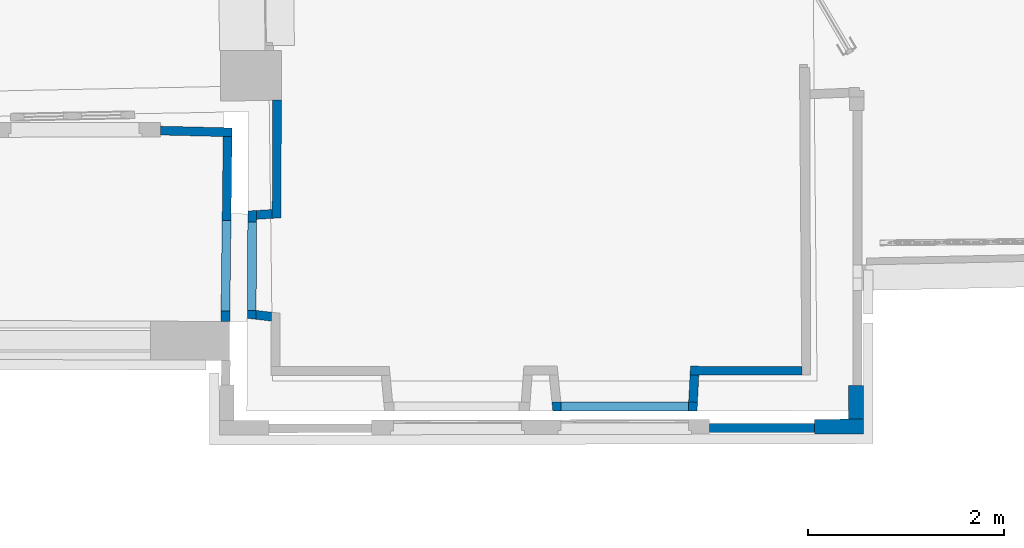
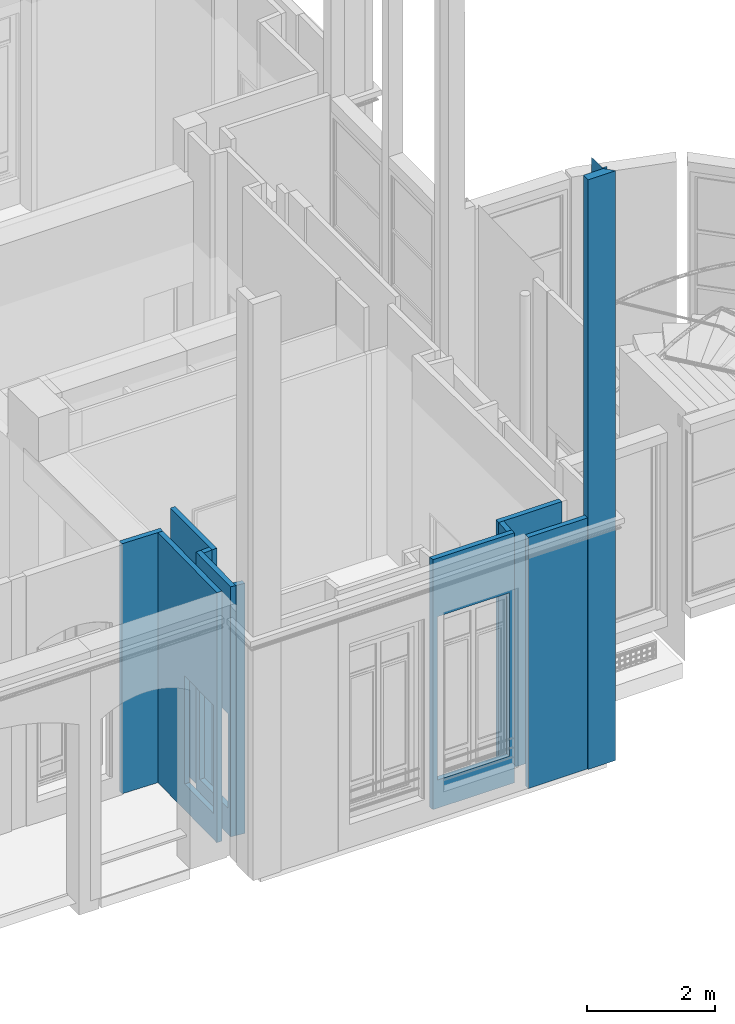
# One storey, part 13 of 97: 12 walls, 3 openings.
"""IFC2X3 building model written with IfcOpenShell, lengths in centimetres."""

import ifcopenshell
import ifcopenshell.guid

model = None  # the IFC model being written
_history = None  # IfcOwnerHistory: only IFC2X3 demands one
_inside = {}  # id of a spatial element -> (the spatial element, [elements in it])
_under = {}  # id of a project, library or spatial element -> (it, [spatial elements below it])
_declared = {}  # id of a project -> (the project, [libraries it declares])
_typed = {}  # id of a type object -> (the type object, [elements of that type])
_made_of = {}  # id of a material, layer set ... -> (it, [elements and type objects made of it])


def new_model(schema):
    """Start an empty IFC model of exactly this schema.

    Asked for "IFC4X3", IfcOpenShell would pick the latest addendum, in which some entities
    have other attributes; the version numbers below select the first issue.
    IFC2X3 requires an IfcOwnerHistory on every rooted entity: one is made here for all.
    """
    global model, _history
    if schema == "IFC4X3":
        model = ifcopenshell.file(schema_version=(4, 3, 0, 0))
    else:
        model = ifcopenshell.file(schema=schema)
    _inside.clear()
    _under.clear()
    _declared.clear()
    _typed.clear()
    _made_of.clear()
    _history = None
    if model.schema == "IFC2X3":
        org = make("IfcOrganization", Name="unknown")
        user = make(
            "IfcPersonAndOrganization",
            ThePerson=make("IfcPerson", FamilyName="unknown"),
            TheOrganization=org,
        )
        app = make(
            "IfcApplication",
            ApplicationDeveloper=org,
            Version="unknown",
            ApplicationFullName="unknown",
            ApplicationIdentifier="unknown",
        )
        _history = make(
            "IfcOwnerHistory",
            OwningUser=user,
            OwningApplication=app,
            ChangeAction="ADDED",
            CreationDate=0,
        )
    return model


def make(cls, **values):
    """One entity of the class cls with the attributes given. An attribute that is None is left unset."""
    return model.create_entity(
        cls, **{name: value for name, value in values.items() if value is not None}
    )


def entity(cls, *values):
    """Any entity or typed value of the class cls, its attributes in the order of the schema. None: left unset."""
    e = model.create_entity(cls)
    for i, value in enumerate(values):
        if value is not None:
            e[i] = value
    return e


def rooted(cls, **values):
    """An entity with a GlobalId (a new one), such as an element, a storey or a relation."""
    return make(cls, GlobalId=ifcopenshell.guid.new(), OwnerHistory=_history, **values)


def si_unit(unit_type, name, prefix=None):
    """IfcSIUnit, for example si_unit("LENGTHUNIT", "METRE", prefix="MILLI")."""
    return make("IfcSIUnit", UnitType=unit_type, Prefix=prefix, Name=name)


def converted_unit(unit_type, name, factor, base, dimensions=None, offset=None):
    """IfcConversionBasedUnit, such as the inch: factor (a typed value) times the base unit."""
    return make(
        "IfcConversionBasedUnit"
        if offset is None
        else "IfcConversionBasedUnitWithOffset",
        ConversionOffset=offset,
        Dimensions=None
        if dimensions is None
        else entity("IfcDimensionalExponents", *dimensions),
        UnitType=unit_type,
        Name=name,
        ConversionFactor=make(
            "IfcMeasureWithUnit", ValueComponent=factor, UnitComponent=base
        ),
    )


def assignment(units):
    """IfcUnitAssignment: the units of a project."""
    return None if units is None else make("IfcUnitAssignment", Units=units)


def point(xyz):
    """IfcCartesianPoint."""
    return None if xyz is None else make("IfcCartesianPoint", Coordinates=xyz)


def direction(xyz):
    """IfcDirection."""
    return None if xyz is None else make("IfcDirection", DirectionRatios=xyz)


def frame(location, z_axis=None, x_axis=None):
    """IfcAxis2Placement3D, a coordinate frame: its origin and axes. An axis left out is left unset."""
    return make(
        "IfcAxis2Placement3D",
        Location=point(location),
        Axis=direction(z_axis),
        RefDirection=direction(x_axis),
    )


def origin():
    """The frame at (0, 0, 0) with its axes left unset."""
    return frame((0.0, 0.0, 0.0))


def origin_with_axes():
    """The frame at (0, 0, 0) with the z axis (0, 0, 1) and the x axis (1, 0, 0) written out."""
    return frame((0.0, 0.0, 0.0), z_axis=(0.0, 0.0, 1.0), x_axis=(1.0, 0.0, 0.0))


def place(relative_to, where):
    """IfcLocalPlacement: puts the frame where relative to a parent placement (None: the world)."""
    return make(
        "IfcLocalPlacement", PlacementRelTo=relative_to, RelativePlacement=where
    )


def context(
    kind, dimensions, precision=None, world=None, true_north=None, identifier=None
):
    """IfcGeometricRepresentationContext, for example the 3D "Model" context."""
    return make(
        "IfcGeometricRepresentationContext",
        ContextIdentifier=identifier,
        ContextType=kind,
        CoordinateSpaceDimension=dimensions,
        Precision=precision,
        WorldCoordinateSystem=world,
        TrueNorth=true_north,
    )


def subcontext(parent, identifier, kind, view, scale=None):
    """IfcGeometricRepresentationSubContext, for example "Body" below "Model"."""
    return make(
        "IfcGeometricRepresentationSubContext",
        ContextIdentifier=identifier,
        ContextType=kind,
        ParentContext=parent,
        TargetScale=scale,
        TargetView=view,
    )


def project(units=None, contexts=None):
    """IfcProject with its units and contexts."""
    return rooted(
        "IfcProject",
        Name="project",
        RepresentationContexts=contexts,
        UnitsInContext=assignment(units),
    )


def spatial(cls, under=None, at=None, **own):
    """A site, building, storey or space (cls), placed at a placement, below another one or the project."""
    s = rooted(cls, ObjectPlacement=at, **own)
    if under is not None:
        _under.setdefault(under.id(), (under, []))[1].append(s)
    return s


def polyline(points):
    """IfcPolyline through the points."""
    return make("IfcPolyline", Points=[point(p) for p in points])


def outline(outer, holes=None, kind="AREA"):
    """IfcArbitraryClosedProfileDef: a profile drawn as a closed curve; with holes, ...WithVoids."""
    if holes is None:
        return make("IfcArbitraryClosedProfileDef", ProfileType=kind, OuterCurve=outer)
    return make(
        "IfcArbitraryProfileDefWithVoids",
        ProfileType=kind,
        OuterCurve=outer,
        InnerCurves=holes,
    )


def extrude(swept, where, along, depth):
    """IfcExtrudedAreaSolid: the profile swept, set in the frame where, extruded along a direction by depth."""
    return make(
        "IfcExtrudedAreaSolid",
        SweptArea=swept,
        Position=where,
        ExtrudedDirection=direction(along),
        Depth=depth,
    )


def clip(a, b, op="DIFFERENCE"):
    """IfcBooleanClippingResult: the solid a cut by the half space b."""
    return make(
        "IfcBooleanClippingResult", Operator=op, FirstOperand=a, SecondOperand=b
    )


def bounded_halfspace(plane, agree, where, boundary):
    """IfcPolygonalBoundedHalfSpace: a half space limited to a polygon's prism."""
    return make(
        "IfcPolygonalBoundedHalfSpace",
        BaseSurface=make("IfcPlane", Position=plane),
        AgreementFlag=agree,
        Position=where,
        PolygonalBoundary=boundary,
    )


def shape(context_of_items, identifier, shape_type, items):
    """IfcShapeRepresentation: the items that make up one representation, for example the "Body"."""
    return make(
        "IfcShapeRepresentation",
        ContextOfItems=context_of_items,
        RepresentationIdentifier=identifier,
        RepresentationType=shape_type,
        Items=items,
    )


def material(Name=None, Category=None):
    """IfcMaterial."""
    return make("IfcMaterial", Name=Name, Category=Category)


def layer(
    of_material, thickness, ventilated=None, Name=None, Category=None, Priority=None
):
    """IfcMaterialLayer: one layer of a wall or slab, of a material (None: an air gap)."""
    return make(
        "IfcMaterialLayer",
        Material=of_material,
        LayerThickness=thickness,
        IsVentilated=ventilated,
        Name=Name,
        Category=Category,
        Priority=Priority,
    )


def layer_set(layers, Name=None):
    """IfcMaterialLayerSet."""
    return make("IfcMaterialLayerSet", MaterialLayers=layers, LayerSetName=Name)


def layer_usage(for_layer_set, set_direction, sense, offset, extent=None):
    """IfcMaterialLayerSetUsage: how a layer set lies in its element."""
    return make(
        "IfcMaterialLayerSetUsage",
        ForLayerSet=for_layer_set,
        LayerSetDirection=set_direction,
        DirectionSense=sense,
        OffsetFromReferenceLine=offset,
        ReferenceExtent=extent,
    )


def made_of(thing, what):
    """Note that an element or type object is made of a material, layer set ...; save() writes the relation."""
    if what is not None:
        _made_of.setdefault(what.id(), (what, []))[1].append(thing)
    return thing


def type_object(cls, material=None, **own):
    """A type object (cls), such as IfcWallType, which elements share."""
    return made_of(rooted(cls, **own), material)


def element(
    cls,
    number,
    at=None,
    inside=None,
    cuts=None,
    type_object=None,
    material=None,
    context=None,
    identifier="Body",
    shape_type=None,
    held_by="IfcProductDefinitionShape",
    body=None,
    shapes=None,
    **own,
):
    """One element of the class cls, such as IfcWall. Its Tag is "e" and its number.

    at: its placement. inside: the storey or other place that contains it. cuts: it is an
    opening in that element (IfcRelVoidsElement). A single representation is given by context,
    identifier, shape_type and body (its items); several are given by shapes. held_by: the class
    of the entity that holds the representations. save() writes the other relations.
    """
    e = rooted(cls, Tag="e%d" % number, ObjectPlacement=at, **own)
    if body is not None:
        shapes = [shape(context, identifier, shape_type, body)]
    if shapes is not None:
        e.Representation = make(held_by, Representations=shapes)
    if inside is not None:
        _inside.setdefault(inside.id(), (inside, []))[1].append(e)
    if cuts is not None:
        rooted(
            "IfcRelVoidsElement", RelatingBuildingElement=cuts, RelatedOpeningElement=e
        )
    if type_object is not None:
        _typed.setdefault(type_object.id(), (type_object, []))[1].append(e)
    return made_of(e, material)


def aggregate(whole, parts):
    """IfcRelAggregates: a whole, such as a stair, and the parts it consists of."""
    return rooted("IfcRelAggregates", RelatingObject=whole, RelatedObjects=parts)


def save(model, path):
    """Write the relations noted so far, then the file.

    IfcRelAggregates (storeys below a building ...), IfcRelContainedInSpatialStructure (elements
    in a storey), IfcRelDefinesByType, IfcRelAssociatesMaterial and IfcRelDeclares: one each for
    every whole, place, type object, material and project.
    """
    for whole, parts in _under.values():
        aggregate(whole, parts)
    for where, things in _inside.values():
        rooted(
            "IfcRelContainedInSpatialStructure",
            RelatedElements=things,
            RelatingStructure=where,
        )
    for kind, things in _typed.values():
        rooted("IfcRelDefinesByType", RelatedObjects=things, RelatingType=kind)
    for what, things in _made_of.values():
        rooted("IfcRelAssociatesMaterial", RelatedObjects=things, RelatingMaterial=what)
    for by, libraries in _declared.values():
        rooted("IfcRelDeclares", RelatingContext=by, RelatedDefinitions=libraries)
    model.write(path)


model = new_model("IFC2X3")

# Units and contexts
model_context = context("Model", 3, precision=0.0001, world=origin(), true_north=direction((0.225632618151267, 0.974212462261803, 0.0)))
body_context = subcontext(model_context, "Body", "Model", "MODEL_VIEW")
footprint_context = subcontext(model_context, "FootPrint", "Model", "MODEL_VIEW")
profile_context = subcontext(model_context, "Profile", "Model", "MODEL_VIEW")
ifc_project = project(units=[si_unit("LENGTHUNIT", "METRE", prefix="CENTI"), si_unit("AREAUNIT", "SQUARE_METRE", prefix="CENTI"), si_unit("VOLUMEUNIT", "CUBIC_METRE", prefix="CENTI"), converted_unit("PLANEANGLEUNIT", "DEGREE", entity("IfcRatioMeasure", 0.0174532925), si_unit("PLANEANGLEUNIT", "RADIAN"), dimensions=[0, 0, 0, 0, 0, 0, 0])], contexts=[model_context])

# Site, building, storey
site_placement = place(None, origin_with_axes())
site = spatial("IfcSite", under=ifc_project, at=site_placement, Name="Default Site", CompositionType="ELEMENT")
building_placement = place(site_placement, origin_with_axes())
building = spatial("IfcBuilding", under=site, at=building_placement, Name="Default Building", CompositionType="ELEMENT")
storey_placement = place(building_placement, origin_with_axes())
storey = spatial("IfcBuildingStorey", under=building, at=storey_placement, Name="Rez-de-chaussée", CompositionType="ELEMENT", Elevation=0.0)

# Wall, opening
ifc_material = material(Name="<aucun>")
ifc_layer_1 = layer(ifc_material, 9.0)
ifc_layer_set_1 = layer_set([ifc_layer_1], Name="default")
ifc_layer_usage_1 = layer_usage(ifc_layer_set_1, "AXIS2", "POSITIVE", -4.5)
wall_type_1 = type_object("IfcWallType", Name="default 90", PredefinedType="NOTDEFINED", material=ifc_layer_set_1)
wall_1_placement = place(storey_placement, frame((244.896109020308, -934.20949615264, 0.0128503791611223), z_axis=(0.0, 0.0, 1.0), x_axis=(0.012176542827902, 0.999925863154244, 0.0)))
wall_1 = element("IfcWallStandardCase", 1, at=wall_1_placement, inside=storey, type_object=wall_type_1, material=ifc_layer_usage_1, Name="Enveloppe 376068", context=body_context, shape_type="SweptSolid", body=[
    extrude(outline(polyline([(-0.00565498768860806, 4.4999999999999), (0.0626911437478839, -4.49998783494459), (188.245870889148, -4.49999999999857), (188.355480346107, 4.50000000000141), (-0.00565498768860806, 4.4999999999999)])), frame((0.0, 0.0, -3.10862446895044e-13), z_axis=(0.0, 0.0, 1.0), x_axis=(1.0, 0.0, 0.0)), (0.0, 0.0, 1.0), 477.795358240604),
])
opening_1_placement = place(wall_1_placement, frame((10.5128702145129, 5.6843418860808e-14, 49.5481608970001), z_axis=(0.0, 0.0, 1.0), x_axis=(1.0, 7.72472363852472e-15, 0.0)))
cartesian_point_1 = entity("IfcCartesianPoint", [0.0, 4.44089209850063e-14, 206.671484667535])
cartesian_point_2 = entity("IfcCartesianPoint", [92.5929978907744, 4.49999999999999])
element("IfcOpeningElement", 2, at=opening_1_placement, cuts=wall_1, Name="Baie 380011", ObjectType="Opening", shapes=[
    shape(body_context, "Body", "SweptSolid", [extrude(outline(polyline([(0.0, 206.671484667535), (0.0, 0.0), (92.5929978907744, 0.0), (92.5929978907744, 206.671484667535), (0.0, 206.671484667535)])), frame((0.0, 14.5, 0.0), z_axis=(0.0, -1.0, 0.0), x_axis=(1.0, 0.0, 0.0)), (0.0, 0.0, 1.0), 29.0)]),
    shape(profile_context, "Profile", "GeometricCurveSet", [entity("IfcGeometricCurveSet", [entity("IfcPolyline", [cartesian_point_1, entity("IfcCartesianPoint", [0.0, 4.44089209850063e-14, 0.0]), entity("IfcCartesianPoint", [92.5929978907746, 0.0, 0.0]), entity("IfcCartesianPoint", [92.5929978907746, 0.0, 206.671484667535]), cartesian_point_1])])]),
    shape(footprint_context, "FootPrint", "GeometricCurveSet", [entity("IfcGeometricCurveSet", [entity("IfcPolyline", [cartesian_point_2, entity("IfcCartesianPoint", [0.0, 4.50000000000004]), entity("IfcCartesianPoint", [0.0, -4.49999999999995]), entity("IfcCartesianPoint", [92.5929978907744, -4.49999999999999]), cartesian_point_2])])]),
])

# Walls
ifc_layer_usage_2 = layer_usage(ifc_layer_set_1, "AXIS2", "POSITIVE", -4.5)
wall_2_placement = place(storey_placement, frame((242.796338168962, -741.314441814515, 0.0128503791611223), z_axis=(0.0, 0.0, 1.0), x_axis=(-0.999703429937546, 0.0243526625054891, 0.0)))
element("IfcWallStandardCase", 3, at=wall_2_placement, inside=storey, type_object=wall_type_1, material=ifc_layer_usage_2, Name="Enveloppe 375942", context=body_context, shape_type="SweptSolid", body=[
    extrude(outline(polyline([(63.7756651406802, 4.50000000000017), (-9.00387840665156, 4.49999999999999), (-8.8942689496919, -4.50000000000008), (63.9992019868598, -4.49999999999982), (63.7756651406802, 4.50000000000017)])), frame((0.0, 0.0, -2.71050543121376e-18), z_axis=(0.0, 0.0, 1.0), x_axis=(1.0, 0.0, 0.0)), (0.0, 0.0, 1.0), 477.795358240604),
])
ifc_layer_usage_3 = layer_usage(ifc_layer_set_1, "AXIS2", "POSITIVE", -4.5)
wall_3_placement = place(storey_placement, frame((300.206487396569, -930.273903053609, 0.0128503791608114), z_axis=(0.0, 0.0, 1.0), x_axis=(-0.993236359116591, 0.116110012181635, 0.0)))
element("IfcWallStandardCase", 4, at=wall_3_placement, inside=storey, type_object=wall_type_1, material=ifc_layer_usage_3, Name="Enveloppe 769168", context=body_context, shape_type="SweptSolid", body=[
    extrude(outline(polyline([(23.6238919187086, 4.49999999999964), (8.05495055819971, 4.49999999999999), (9.05543910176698, -4.49999999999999), (24.6243804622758, -4.50000000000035), (23.6238919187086, 4.49999999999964)])), origin_with_axes(), (0.0, 0.0, 1.0), 477.795358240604),
])
ifc_layer_usage_4 = layer_usage(ifc_layer_set_1, "AXIS2", "POSITIVE", -4.5)
wall_4_placement = place(storey_placement, frame((297.142954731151, -829.154494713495, 0.0128503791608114), z_axis=(0.0, 0.0, 1.0), x_axis=(0.0028780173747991, 0.999995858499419, 0.0)))
element("IfcWallStandardCase", 5, at=wall_4_placement, inside=storey, type_object=wall_type_1, material=ifc_layer_usage_4, Name="Enveloppe 769384", context=body_context, shape_type="Clipping", body=[
    clip(extrude(outline(polyline([(-3.5527136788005e-13, 4.49999999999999), (0.580787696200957, -4.49999999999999), (131.776431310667, -4.50000000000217), (131.776431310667, 4.49999999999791), (-3.5527136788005e-13, 4.49999999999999)])), origin_with_axes(), (0.0, 0.0, 1.0), 477.795358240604), bounded_halfspace(frame((120.362145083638, 4.49999999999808, 393.395358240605), z_axis=(0.0, 0.0, 1.0), x_axis=(1.0, -1.42555238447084e-14, 0.0)), True, frame((120.362145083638, 4.49999999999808, 393.395358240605), z_axis=(0.0, 0.0, 1.0), x_axis=(1.0, 0.0, 0.0)), polyline([(-3.5527136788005e-13, -8.96822671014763), (0.0, 4.44089209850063e-14), (11.4142862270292, -1.33226762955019e-13), (11.414286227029, -9.00000000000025), (-3.5527136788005e-13, -8.96822671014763)]))),
])
ifc_layer_usage_5 = layer_usage(ifc_layer_set_1, "AXIS2", "POSITIVE", -4.5)
wall_5_placement = place(storey_placement, frame((267.516559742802, -826.181856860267, 0.0128503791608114), z_axis=(0.0, 0.0, 1.0), x_axis=(0.998105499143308, 0.0615257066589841, 0.0)))
element("IfcWallStandardCase", 6, at=wall_5_placement, inside=storey, type_object=wall_type_1, material=ifc_layer_usage_5, Name="Enveloppe 770643", context=body_context, shape_type="SweptSolid", body=[
    extrude(outline(polyline([(9.02037552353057, -4.50000000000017), (24.8967147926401, -4.50000000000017), (25.4775024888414, 4.50000000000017), (9.62632484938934, 4.50000000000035), (9.02037552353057, -4.50000000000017)])), origin_with_axes(), (0.0, 0.0, 1.0), 477.795358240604),
])
ifc_layer_usage_6 = layer_usage(ifc_layer_set_1, "AXIS2", "POSITIVE", -4.5)
wall_6_placement = place(storey_placement, frame((832.108415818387, -984.430761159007, 0.0128503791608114), z_axis=(0.0, 0.0, 1.0), x_axis=(-0.999999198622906, 0.00126599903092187, 0.0)))
element("IfcWallStandardCase", 7, at=wall_6_placement, inside=storey, type_object=wall_type_1, material=ifc_layer_usage_6, Name="Enveloppe 767057", context=body_context, shape_type="SweptSolid", body=[
    extrude(outline(polyline([(113.835040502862, 4.50000000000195), (-0.079555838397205, 4.50000000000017), (7.99360577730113e-12, -4.49999999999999), (113.384060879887, -4.49999999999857), (113.835040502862, 4.50000000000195)])), frame((0.0, 0.0, -2.71050543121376e-18), z_axis=(0.0, 0.0, 1.0), x_axis=(1.0, 0.0, 0.0)), (0.0, 0.0, 1.0), 477.795358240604),
])
ifc_layer_usage_7 = layer_usage(ifc_layer_set_1, "AXIS2", "POSITIVE", -4.5)
wall_7_placement = place(storey_placement, frame((721.338440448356, -1016.72197587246, 0.0128503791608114), z_axis=(0.0, 0.0, 1.0), x_axis=(0.0513104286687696, 0.998682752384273, 0.0)))
element("IfcWallStandardCase", 8, at=wall_7_placement, inside=storey, type_object=wall_type_1, material=ifc_layer_usage_7, Name="Enveloppe 767131", context=body_context, shape_type="SweptSolid", body=[
    extrude(outline(polyline([(0.333685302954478, 4.49999999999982), (0.333685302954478, -4.49999999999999), (28.19195780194, -4.49999999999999), (27.7409781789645, 4.4999999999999), (0.333685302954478, 4.49999999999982)])), frame((0.0, 0.0, 2.71050543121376e-18), z_axis=(0.0, 0.0, 1.0), x_axis=(1.0, 0.0, 0.0)), (0.0, 0.0, 1.0), 477.795358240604),
])

# Wall, opening
ifc_layer_usage_8 = layer_usage(ifc_layer_set_1, "AXIS2", "POSITIVE", -4.5)
wall_8_placement = place(storey_placement, frame((582.599325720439, -1020.69324960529, 0.0128503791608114), z_axis=(0.0, 0.0, 1.0), x_axis=(0.999999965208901, 0.000263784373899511, 0.0)))
wall_8 = element("IfcWallStandardCase", 9, at=wall_8_placement, inside=storey, type_object=wall_type_1, material=ifc_layer_usage_8, Name="Enveloppe 767132", context=body_context, shape_type="SweptSolid", body=[
    extrude(outline(polyline([(-4.97437622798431, 4.49999999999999), (-4.07086216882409, -4.50000000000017), (142.810565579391, -4.50000000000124), (143.251378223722, 4.03583522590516), (134.263355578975, 4.49999999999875), (-4.97437622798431, 4.49999999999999)])), origin_with_axes(), (0.0, 0.0, 1.0), 477.795358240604),
])
opening_2_placement = place(wall_8_placement, frame((4.07086216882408, 0.0, 54.0313409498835), z_axis=(0.0, 0.0, 1.0), x_axis=(1.0, -9.59209925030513e-15, 0.0)))
cartesian_point_3 = entity("IfcCartesianPoint", [0.0, 0.0, 312.0])
cartesian_point_4 = entity("IfcCartesianPoint", [130.192493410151, 4.49999999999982])
element("IfcOpeningElement", 10, at=opening_2_placement, cuts=wall_8, Name="4294966462_11", ObjectType="Opening", shapes=[
    shape(body_context, "Body", "SweptSolid", [extrude(outline(polyline([(0.0, 312.0), (0.0, -1.11022302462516e-14), (130.192493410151, -1.11022302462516e-14), (130.192493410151, 312.0), (0.0, 312.0)])), frame((0.0, 14.5, 0.0), z_axis=(0.0, -1.0, 0.0), x_axis=(1.0, 0.0, 0.0)), (0.0, 0.0, 1.0), 29.0)]),
    shape(profile_context, "Profile", "GeometricCurveSet", [entity("IfcGeometricCurveSet", [entity("IfcPolyline", [cartesian_point_3, entity("IfcCartesianPoint", [0.0, 0.0, -1.11022302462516e-14]), entity("IfcCartesianPoint", [130.192493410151, -1.77635683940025e-13, -1.11022302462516e-14]), entity("IfcCartesianPoint", [130.192493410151, -1.77635683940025e-13, 312.0]), cartesian_point_3])])]),
    shape(footprint_context, "FootPrint", "GeometricCurveSet", [entity("IfcGeometricCurveSet", [entity("IfcPolyline", [cartesian_point_4, entity("IfcCartesianPoint", [0.0, 4.49999999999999]), entity("IfcCartesianPoint", [8.88178419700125e-14, -4.50000000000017]), entity("IfcCartesianPoint", [130.192493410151, -4.49999999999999]), cartesian_point_4])])]),
])

ifc_layer_usage_9 = layer_usage(ifc_layer_set_1, "AXIS2", "POSITIVE", -4.5)
wall_9_placement = place(storey_placement, frame((271.748422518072, -926.947135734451, 0.0128503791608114), z_axis=(0.0, 0.0, 1.0), x_axis=(0.00566162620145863, 0.999983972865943, 0.0)))
wall_9 = element("IfcWallStandardCase", 11, at=wall_9_placement, inside=storey, type_object=wall_type_1, material=ifc_layer_usage_9, Name="Enveloppe 3133", context=body_context, shape_type="SweptSolid", body=[
    extrude(outline(polyline([(-4.02747527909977, 4.49999999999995), (-5.02796382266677, -4.50000000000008), (105.876194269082, -4.49999999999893), (105.270244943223, 4.50000000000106), (-4.02747527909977, 4.49999999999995)])), frame((0.0, 0.0, 2.71050543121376e-18), z_axis=(0.0, 0.0, 1.0), x_axis=(1.0, 0.0, 0.0)), (0.0, 0.0, 1.0), 477.795358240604),
])
opening_3_placement = place(wall_9_placement, frame((4.02747527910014, 0.0, 49.9871496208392), z_axis=(0.0, 0.0, 1.0), x_axis=(-1.0, -1.00162933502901e-14, 0.0)))
cartesian_point_5 = entity("IfcCartesianPoint", [0.0, -4.44089209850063e-14, 180.0])
cartesian_point_6 = entity("IfcCartesianPoint", [-90.0, -4.49999999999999])
element("IfcOpeningElement", 12, at=opening_3_placement, cuts=wall_9, Name="4294966456_11", ObjectType="Opening", shapes=[
    shape(body_context, "Body", "SweptSolid", [extrude(outline(polyline([(1.77635683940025e-13, 180.0), (1.77635683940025e-13, 0.0), (90.0, 0.0), (90.0, 180.0), (1.77635683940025e-13, 180.0)])), frame((0.0, -14.5, 0.0), z_axis=(0.0, 1.0, 0.0), x_axis=(-1.0, 0.0, 0.0)), (0.0, 0.0, 1.0), 29.0)]),
    shape(profile_context, "Profile", "GeometricCurveSet", [entity("IfcGeometricCurveSet", [entity("IfcPolyline", [cartesian_point_5, entity("IfcCartesianPoint", [0.0, -4.44089209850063e-14, 0.0]), entity("IfcCartesianPoint", [-89.9999999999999, -4.44089209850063e-14, 0.0]), entity("IfcCartesianPoint", [-89.9999999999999, -4.44089209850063e-14, 180.0]), cartesian_point_5])])]),
    shape(footprint_context, "FootPrint", "GeometricCurveSet", [entity("IfcGeometricCurveSet", [entity("IfcPolyline", [cartesian_point_6, entity("IfcCartesianPoint", [-1.77635683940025e-13, -4.50000000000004]), entity("IfcCartesianPoint", [0.0, 4.4999999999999]), entity("IfcCartesianPoint", [-90.0, 4.49999999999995]), cartesian_point_6])])]),
])

# Walls
ifc_layer_usage_10 = layer_usage(ifc_layer_set_1, "AXIS2", "POSITIVE", -4.5)
wall_10_placement = place(storey_placement, frame((737.93366993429, -1042.76995952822, -1.99999999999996), z_axis=(0.0, 0.0, 1.0), x_axis=(0.99999978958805, 0.000648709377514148, 0.0)))
element("IfcWallStandardCase", 13, at=wall_10_placement, inside=storey, type_object=wall_type_1, material=ifc_layer_usage_10, Name="Enveloppe 365735", context=body_context, shape_type="Clipping", body=[
    clip(extrude(outline(polyline([(3.75186104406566e-08, -4.49994216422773), (107.392694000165, -4.50000000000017), (107.38184915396, 4.49999999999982), (3.75186104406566e-08, 4.50005783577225), (3.75186104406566e-08, -4.49994216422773)])), origin_with_axes(), (0.0, 0.0, 1.0), 479.808208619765), bounded_halfspace(frame((0.0, -4.49999999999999, 2.01285037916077), z_axis=(0.0, 0.0, -1.0), x_axis=(1.0, 1.79819375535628e-13, 0.0)), True, frame((0.0, -4.49999999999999, 2.01285037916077), z_axis=(0.0, 0.0, 1.0), x_axis=(1.0, 0.0, 0.0)), polyline([(0.0, 0.0), (0.0891551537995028, 3.5527136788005e-13), (0.0891551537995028, 8.99999999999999), (0.0, 9.00000000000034), (0.0, 0.0)]))),
])
ifc_layer_2 = layer(ifc_material, 15.0)
ifc_layer_set_2 = layer_set([ifc_layer_2], Name="default")
ifc_layer_usage_11 = layer_usage(ifc_layer_set_2, "AXIS2", "POSITIVE", -7.5)
wall_type_2 = type_object("IfcWallType", Name="default 150", PredefinedType="NOTDEFINED", material=ifc_layer_set_2)
wall_11_placement = place(storey_placement, frame((845.318392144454, -1041.3371957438, -1.99999999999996), z_axis=(0.0, 0.0, 1.0), x_axis=(0.999998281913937, 0.0018536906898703, 0.0)))
solid_1 = clip(clip(clip(clip(clip(clip(clip(clip(extrude(outline(polyline([(-0.0999998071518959, -5.86292089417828), (-1.77635683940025e-13, -5.86310626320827), (0.0, -7.50000000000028), (49.5579218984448, -7.49999999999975), (49.5976803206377, 7.50000005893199), (0.0, 7.49999999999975), (0.0, 3.1369002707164), (-0.0891549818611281, 3.1370655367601), (-0.0999998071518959, -5.86292089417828)])), origin_with_axes(), (0.0, 0.0, 1.0), 1126.44503939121), bounded_halfspace(frame((45.6207033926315, 7.47075938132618, 1110.33977962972), z_axis=(-0.850800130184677, -0.00151649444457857, -0.525487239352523), x_axis=(0.363941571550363, -0.723042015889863, -0.587159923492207)), True, frame((45.6207033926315, 7.47075938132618, 1110.33977962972), z_axis=(0.0, 0.0, 1.0), x_axis=(1.0, 0.0, 0.0)), polyline([(-1.77635683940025e-13, 0.0), (3.95608229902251, -7.85954104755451), (3.97690316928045, -0.0105494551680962), (-1.77635683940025e-13, 0.0)]))), bounded_halfspace(frame((45.6059851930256, 7.50000000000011, 1110.36352502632), z_axis=(-0.850800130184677, -0.00151649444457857, -0.525487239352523), x_axis=(-0.525487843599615, 9.86331242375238e-15, 0.850801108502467)), True, frame((45.6059851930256, 7.50000000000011, 1110.36352502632), z_axis=(0.0, 0.0, 1.0), x_axis=(1.0, 0.0, 0.0)), polyline([(0.0, -1.77635683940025e-13), (0.0147181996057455, -0.029240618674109), (3.99162136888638, -0.0397900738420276), (3.99172691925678, 0.0), (0.0, -1.77635683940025e-13)]))), bounded_halfspace(frame((35.7156962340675, 7.4970342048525, 1126.44499632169), z_axis=(0.00289471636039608, 0.846189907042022, -0.532873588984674), x_axis=(9.47874591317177e-15, -0.532875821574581, -0.846193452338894)), True, frame((35.7156962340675, 7.4970342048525, 1126.44499632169), z_axis=(0.0, 0.0, 1.0), x_axis=(1.0, 0.0, 0.0)), polyline([(-35.81569616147, -13.3600199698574), (-35.7156962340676, -13.3601404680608), (-35.7156962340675, -14.997034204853), (13.8422256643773, -14.9970342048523), (13.8444191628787, -14.1701354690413), (-0.00290546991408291, 7.70728458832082e-06), (-35.7156962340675, 0.00296579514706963), (-35.7156962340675, -4.36013393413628), (-35.8048513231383, -4.3600265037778), (-35.81569616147, -13.3600199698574)]))), bounded_halfspace(frame((44.5000471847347, 7.4737321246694, 1112.15419084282), z_axis=(-0.850800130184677, -0.00151649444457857, -0.525487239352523), x_axis=(0.00265260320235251, 0.999970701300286, -0.00718054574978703)), True, frame((44.5000471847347, 7.4737321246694, 1112.15419084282), z_axis=(0.0, 0.0, 1.0), x_axis=(1.0, 0.0, 0.0)), polyline([(0.0, -1.77635683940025e-13), (5.07086697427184, -10.0759472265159), (5.0767385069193, -7.86251379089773), (1.12065620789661, -0.0029727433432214), (0.0, -1.77635683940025e-13)]))), bounded_halfspace(frame((35.7156962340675, 7.4970342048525, 1126.44503939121), z_axis=(-0.851923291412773, -0.00357010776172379, -0.523654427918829), x_axis=(0.00265250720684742, 0.999934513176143, -0.0111325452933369)), True, frame((35.7156962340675, 7.4970342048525, 1126.44503939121), z_axis=(0.0, 0.0, 1.0), x_axis=(1.0, 0.0, 0.0)), polyline([(0.0, -3.5527136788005e-13), (13.8444191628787, -14.1701354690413), (13.8493525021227, -12.3103794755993), (7.66353624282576, -0.0203289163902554), (0.0, -3.5527136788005e-13)]))), bounded_halfspace(frame((43.3792324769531, 7.47670528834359, 1113.96885867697), z_axis=(-0.850800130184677, -0.00151649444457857, -0.525487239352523), x_axis=(-0.525489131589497, 0.00139395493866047, 0.850799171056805)), True, frame((43.3792324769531, 7.47670528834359, 1113.96885867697), z_axis=(0.0, 0.0, 1.0), x_axis=(1.0, 0.0, 0.0)), polyline([(0.0, -1.77635683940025e-13), (6.18581625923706, -12.2900505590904), (6.19168168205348, -10.07892039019), (1.12081470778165, -0.00297316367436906), (0.0, -1.77635683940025e-13)]))), bounded_halfspace(frame((43.15281035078, 7.47730591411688, 1114.34587634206), z_axis=(0.0, 0.0, -1.0), x_axis=(-0.00419060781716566, 0.999991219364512, 0.0)), True, frame((43.15281035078, 7.47730591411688, 1114.34587634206), z_axis=(0.0, 0.0, 1.0), x_axis=(1.0, 0.0, 0.0)), polyline([(-8.5551510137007, 0.0226940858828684), (0.0, 0.0), (-9.51028484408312e-05, 0.0226940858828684), (-8.5551510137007, 0.0226940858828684)]))), bounded_halfspace(frame((44.4860018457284, 7.49999999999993, 1112.17685541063), z_axis=(-0.850800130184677, -0.00151649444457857, -0.525487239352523), x_axis=(0.375249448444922, -0.701799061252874, -0.605529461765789)), True, frame((44.4860018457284, 7.49999999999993, 1112.17685541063), z_axis=(0.0, 0.0, 1.0), x_axis=(1.0, 0.0, 0.0)), polyline([(0.0, -1.77635683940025e-13), (0.01404533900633, -0.02626787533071), (1.13470154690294, -0.0292406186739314), (1.11998334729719, 0.0), (0.0, -1.77635683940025e-13)])))
element("IfcWallStandardCase", 14, at=wall_11_placement, inside=storey, type_object=wall_type_2, material=ifc_layer_usage_11, Name="Enveloppe 366066", context=body_context, shape_type="Clipping", body=[
    clip(clip(solid_1, bounded_halfspace(frame((43.15281035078, 7.47730591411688, 1114.34587634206), z_axis=(-0.851923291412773, -0.00357010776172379, -0.523654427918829), x_axis=(0.00419060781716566, -0.999991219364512, 1.56546621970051e-11)), True, frame((43.15281035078, 7.47730591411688, 1114.34587634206), z_axis=(0.0, 0.0, 1.0), x_axis=(1.0, 0.0, 0.0)), polyline([(0.0, 0.0), (0.226422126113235, -0.000600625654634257), (0.21469745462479, 0.0226940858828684), (-9.51028484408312e-05, 0.0226940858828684), (0.0, 0.0)]))), bounded_halfspace(frame((43.3675078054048, 7.49999999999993, 1113.99643447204), z_axis=(-0.851923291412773, -0.00357010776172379, -0.523654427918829), x_axis=(-0.375210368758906, 0.70172597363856, 0.605638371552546)), True, frame((43.3675078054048, 7.49999999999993, 1113.99643447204), z_axis=(0.0, 0.0, 1.0), x_axis=(1.0, 0.0, 0.0)), polyline([(0.0, -1.77635683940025e-13), (0.0117246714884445, -0.0232947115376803), (1.13253937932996, -0.02626787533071), (1.11849404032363, -1.77635683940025e-13), (0.0, -1.77635683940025e-13)]))),
])
ifc_layer_usage_12 = layer_usage(ifc_layer_set_2, "AXIS2", "POSITIVE", -7.5)
wall_12_placement = place(storey_placement, frame((887.390002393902, -1048.90400762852, -1.99999999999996), z_axis=(0.0, 0.0, 1.0), x_axis=(0.000798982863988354, 0.999999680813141, 0.0)))
solid_2 = clip(clip(clip(clip(clip(clip(clip(clip(extrude(outline(polyline([(15.1249448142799, 7.49999999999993), (15.1249447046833, -1.05504394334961), (15.1480367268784, -1.05502549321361), (15.1647350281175, -7.49999999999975), (49.273045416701, -7.49999923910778), (49.272244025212, -6.30807677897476), (49.3448111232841, -6.30801879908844), (49.3457304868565, -6.1190893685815), (49.3720930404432, -6.11906830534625), (49.368497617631, -1.61906983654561), (49.3884967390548, 2.69212213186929), (49.3641292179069, 2.69210266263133), (49.3639783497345, 2.88092789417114), (49.2720930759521, 2.88085447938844), (49.2720930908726, 7.50000000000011), (15.1249448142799, 7.49999999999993)])), frame((0.0, 0.0, -3.46944695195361e-16), z_axis=(0.0, 0.0, 1.0), x_axis=(1.0, 0.0, 0.0)), (0.0, 0.0, 1.0), 1128.25125900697), bounded_halfspace(frame((49.2720930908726, -6.30807689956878, 479.808208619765), z_axis=(0.0, 0.0, 1.0), x_axis=(-3.27896672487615e-13, 1.0, 0.0)), True, frame((49.2720930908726, -6.30807689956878, 479.808208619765), z_axis=(0.0, 0.0, 1.0), x_axis=(1.0, 0.0, 0.0)), polyline([(1.77635683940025e-13, 0.0), (1.77635683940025e-13, 0.188908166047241), (0.0736374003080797, 0.188982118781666), (0.0727183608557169, -0.000352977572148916), (1.77635683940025e-13, 0.0)]))), bounded_halfspace(frame((49.3884972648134, 2.69146409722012, 479.808208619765), z_axis=(0.0, 0.0, 1.0), x_axis=(-0.00485397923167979, -0.999988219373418, 0.0)), True, frame((49.3884972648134, 2.69146409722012, 479.808208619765), z_axis=(0.0, 0.0, 1.0), x_axis=(1.0, 0.0, 0.0)), polyline([(-0.0209234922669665, -4.31053467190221), (-0.0252526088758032, 0.00012257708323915), (0.0, -1.77635683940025e-13), (-0.0209234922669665, -4.31053467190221)]))), bounded_halfspace(frame((15.1279029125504, 6.38486464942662, 1114.34587634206), z_axis=(0.0, 0.0, 1.0), x_axis=(-0.00265267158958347, 0.99999648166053, 0.0)), True, frame((15.1279029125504, 6.38486464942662, 1114.34587634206), z_axis=(0.0, 0.0, 1.0), x_axis=(1.0, 0.0, 0.0)), polyline([(-0.0029580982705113, -5.78281298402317e-06), (-0.0029580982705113, 1.11513535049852), (-0.0029580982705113, -5.78281298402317e-06)]))), bounded_halfspace(frame((15.1249448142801, -1.055181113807, 1114.34587634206), z_axis=(0.0, 0.0, 1.0), x_axis=(-2.44627451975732e-14, 1.0, 0.0)), True, frame((15.1249448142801, -1.055181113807, 1114.34587634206), z_axis=(0.0, 0.0, 1.0), x_axis=(1.0, 0.0, 0.0)), polyline([(0.0, -1.77635683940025e-13), (0.00296576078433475, 7.43715717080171), (0.0226937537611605, 0.00015530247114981), (0.0, -1.77635683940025e-13)]))), bounded_halfspace(frame((36.8805875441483, 7.49999999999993, 1128.03054339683), z_axis=(-0.00377338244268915, 0.850793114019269, -0.525487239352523), x_axis=(-2.11370634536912e-15, 0.525490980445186, 0.850799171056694)), True, frame((36.8805875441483, 7.49999999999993, 1128.03054339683), z_axis=(0.0, 0.0, 1.0), x_axis=(1.0, 0.0, 0.0)), polyline([(-21.7264412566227, -11.0082871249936), (-21.7158525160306, -14.9999999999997), (12.3915055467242, -15.0000000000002), (12.3915055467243, 1.77635683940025e-13), (1.77635683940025e-13, -1.77635683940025e-13), (-21.7264412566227, -11.0082871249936)]))), bounded_halfspace(frame((49.2720930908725, 2.88083580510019, 1120.4628791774), z_axis=(-0.00377338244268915, 0.850793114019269, -0.525487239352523), x_axis=(-2.54861236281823e-14, -0.525490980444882, -0.850799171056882)), True, frame((49.2720930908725, 2.88083580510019, 1120.4628791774), z_axis=(0.0, 0.0, 1.0), x_axis=(1.0, 0.0, 0.0)), polyline([(0.0, -0.18880667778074), (0.0911515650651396, -0.189249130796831), (0.0909614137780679, 9.1350934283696e-05), (0.0, -1.77635683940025e-13), (0.0, -0.18880667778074)]))), bounded_halfspace(frame((49.3675737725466, -1.61907057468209, 479.808208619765), z_axis=(0.0, 0.0, -1.0), x_axis=(-0.0048539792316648, -0.999988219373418, 0.0)), True, frame((49.3675737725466, -1.61907057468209, 479.808208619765), z_axis=(0.0, 0.0, 1.0), x_axis=(1.0, 0.0, 0.0)), polyline([(-0.0218432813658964, -4.50002420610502), (0.00451926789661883, -4.49999773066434), (-1.77635683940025e-13, 0.0), (-0.0218432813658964, -4.50002420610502)]))), bounded_halfspace(frame((49.2720930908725, 2.69202912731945, 1120.15719064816), z_axis=(-0.00377338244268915, 0.850793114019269, -0.525487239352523), x_axis=(0.00255078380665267, 0.525497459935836, 0.850791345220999)), True, frame((49.2720930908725, 2.69202912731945, 1120.15719064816), z_axis=(0.0, 0.0, 1.0), x_axis=(1.0, 0.0, 0.0)), polyline([(3.5527136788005e-13, -8.81119786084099), (0.0736374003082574, -8.81112390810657), (0.0954806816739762, -4.31109970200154), (0.0911515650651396, -0.000442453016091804), (0.0, 0.0), (3.5527136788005e-13, -8.81119786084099)])))
solid_3 = clip(clip(clip(clip(clip(clip(clip(clip(solid_2, bounded_halfspace(frame((16.2632333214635, 7.49999999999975, 1128.2512161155), z_axis=(0.846194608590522, -0.000650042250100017, -0.532873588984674), x_axis=(-0.532873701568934, 2.49225553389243e-14, -0.846194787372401)), True, frame((16.2632333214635, 7.49999999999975, 1128.2512161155), z_axis=(0.0, 0.0, 1.0), x_axis=(1.0, 0.0, 0.0)), polyline([(-1.13533040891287, -1.1151353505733), (1.77635683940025e-13, -1.77635683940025e-13), (-1.13828850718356, 1.77635683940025e-13), (-1.13533040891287, -1.1151353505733)]))), bounded_halfspace(frame((34.6672328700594, 7.49999999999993, 1128.04643690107), z_axis=(-0.00377338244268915, 0.850793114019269, -0.525487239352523), x_axis=(0.00139394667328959, -0.525485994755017, -0.850801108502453)), True, frame((34.6672328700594, 7.49999999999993, 1128.04643690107), z_axis=(0.0, 0.0, 1.0), x_axis=(1.0, 0.0, 0.0)), polyline([(-19.5130865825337, -11.0082871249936), (2.2133546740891, -1.77635683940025e-13), (0.0, -1.77635683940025e-13), (-19.5160575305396, -9.88830771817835), (-19.5130865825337, -11.0082871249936)]))), bounded_halfspace(frame((16.2632333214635, 7.49999999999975, 1128.25125900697), z_axis=(-0.00582996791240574, 0.851910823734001, -0.523654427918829), x_axis=(0.00138909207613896, -0.523655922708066, -0.851928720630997)), True, frame((16.2632333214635, 7.49999999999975, 1128.25125900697), z_axis=(0.0, 0.0, 1.0), x_axis=(1.0, 0.0, 0.0)), polyline([(-1.13532274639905, -1.11802394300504), (-1.11502497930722, -8.76981761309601), (16.1944580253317, -1.77635683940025e-13), (1.77635683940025e-13, -1.77635683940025e-13), (-1.13532274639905, -1.11802394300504)]))), bounded_halfspace(frame((32.457691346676, 7.49999999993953, 1128.062303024), z_axis=(-0.00377338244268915, 0.850793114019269, -0.525487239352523), x_axis=(-0.999974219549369, -2.73476654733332e-11, 0.00718054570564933)), True, frame((32.457691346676, 7.49999999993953, 1128.062303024), z_axis=(0.0, 0.0, 1.0), x_axis=(1.0, 0.0, 0.0)), polyline([(-17.3065160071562, -9.88830771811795), (2.20954152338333, 6.02184968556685e-11), (1.77635683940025e-13, 0.0), (-17.3094830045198, -8.76981761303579), (-17.3065160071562, -9.88830771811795)]))), bounded_halfspace(frame((49.2720930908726, -6.11916873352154, 1105.89137046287), z_axis=(-0.00377338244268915, 0.850793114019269, -0.525487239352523), x_axis=(0.00255078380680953, 0.525497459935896, 0.850791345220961)), True, frame((49.2720930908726, -6.11916873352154, 1105.89137046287), z_axis=(0.0, 0.0, 1.0), x_axis=(1.0, 0.0, 0.0)), polyline([(1.77635683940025e-13, -0.188908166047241), (0.0727183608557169, -0.18926114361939), (0.0736374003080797, 7.39527344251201e-05), (1.77635683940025e-13, 0.0), (1.77635683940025e-13, -0.188908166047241)]))), bounded_halfspace(frame((49.3632446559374, 2.69158667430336, 1120.15581975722), z_axis=(-0.00377338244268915, 0.850793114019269, -0.525487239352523), x_axis=(0.00052773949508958, -0.525489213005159, -0.850800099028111)), True, frame((49.3632446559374, 2.69158667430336, 1120.15581975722), z_axis=(0.0, 0.0, 1.0), x_axis=(1.0, 0.0, 0.0)), polyline([(0.00432911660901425, -4.31065724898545), (0.0252526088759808, -0.000122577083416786), (1.77635683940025e-13, 0.0), (0.00432911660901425, -4.31065724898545)]))), bounded_halfspace(frame((49.3675737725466, -1.61907057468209, 1113.17659444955), z_axis=(-0.00377338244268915, 0.850793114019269, -0.525487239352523), x_axis=(-0.00255078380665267, -0.525497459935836, -0.850791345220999)), True, frame((49.3675737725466, -1.61907057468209, 1113.17659444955), z_axis=(0.0, 0.0, 1.0), x_axis=(1.0, 0.0, 0.0)), polyline([(-0.0218432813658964, -4.50002420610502), (0.00451926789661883, -4.49999773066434), (-1.77635683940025e-13, 0.0), (-0.0218432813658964, -4.50002420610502)]))), bounded_halfspace(frame((15.1279029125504, 6.38486464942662, 1126.44969018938), z_axis=(0.846194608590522, -0.000650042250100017, -0.532873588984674), x_axis=(-8.79534075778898e-14, -0.99999925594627, 0.00121987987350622)), True, frame((15.1279029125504, 6.38486464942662, 1126.44969018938), z_axis=(0.0, 0.0, 1.0), x_axis=(1.0, 0.0, 0.0)), polyline([(1.77635683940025e-13, -1.77635683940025e-13), (-0.0029580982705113, 1.11513535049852), (1.77635683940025e-13, -1.77635683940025e-13)])))
element("IfcWallStandardCase", 15, at=wall_12_placement, inside=storey, type_object=wall_type_2, material=ifc_layer_usage_12, Name="Enveloppe 366190", context=body_context, shape_type="Clipping", body=[
    clip(solid_3, bounded_halfspace(frame((15.1278876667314, 6.38484967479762, 1126.44970906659), z_axis=(-0.00582996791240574, 0.851910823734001, -0.523654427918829), x_axis=(-0.00138909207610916, 0.523655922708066, 0.851928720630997)), True, frame((15.1278876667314, 6.38484967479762, 1126.44970906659), z_axis=(0.0, 0.0, 1.0), x_axis=(1.0, 0.0, 0.0)), polyline([(-0.00294285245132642, -7.4400307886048), (0.019750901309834, -7.43987548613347), (-0.00294285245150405, -0.00289050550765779), (-0.00294285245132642, -7.4400307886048)]))),
])

save(model, "model.ifc")
